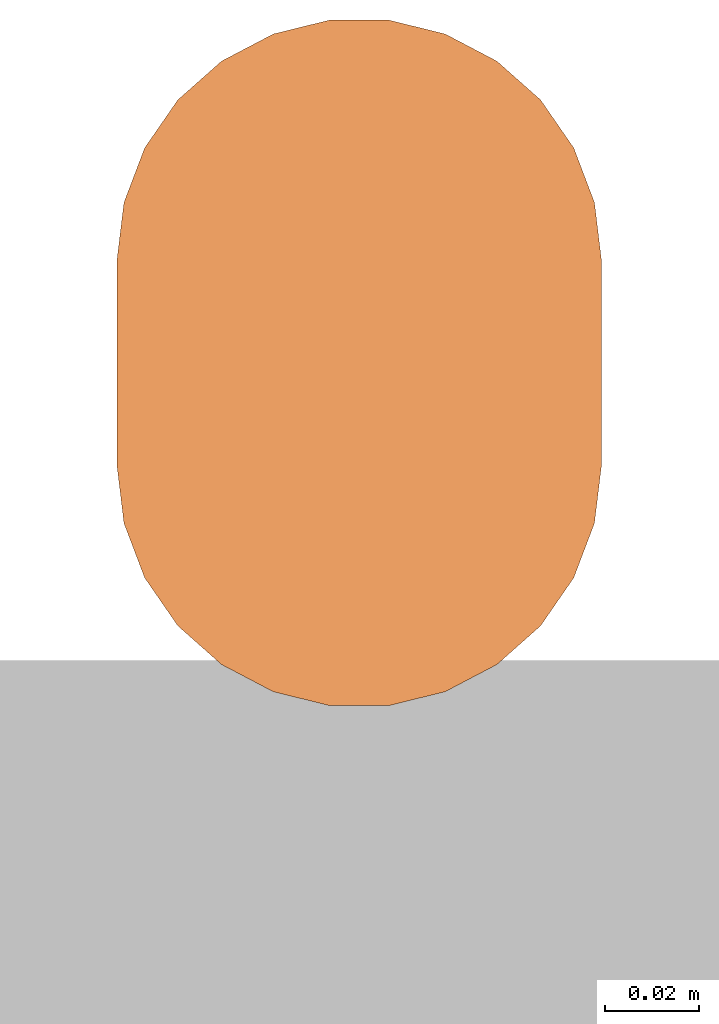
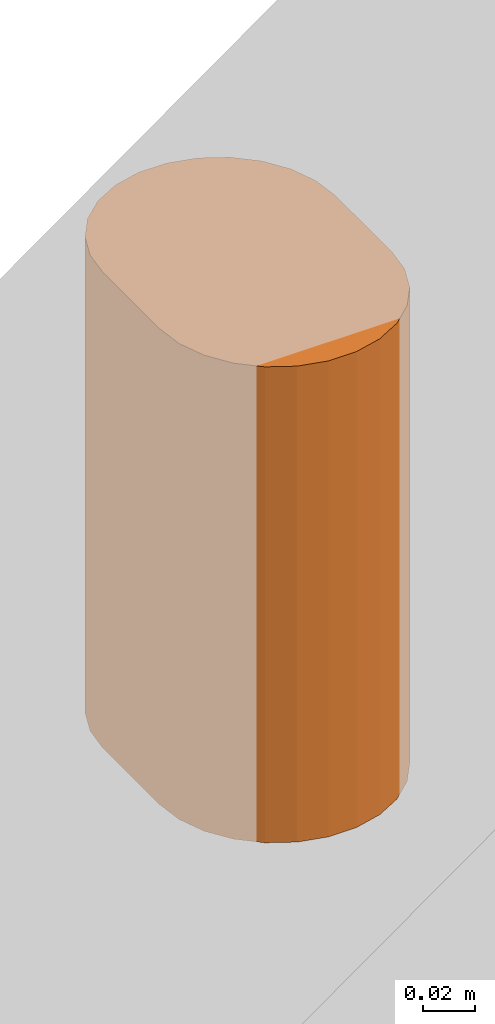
# One storey, part 2 of 2: 1 proxy.
"""IFC2X3 building model written with IfcOpenShell, lengths in millimetres."""

from ifc_helpers import new_model, entity, si_unit, converted_unit, derived_unit, direction, frame, frame_2d, origin, place, context, subcontext, project, spatial, polyline, circle_curve, parameter, trimmed, segment, composite_curve, outline, extrude, source, transform, mapped, element, save


model = new_model("IFC2X3")

# Units and contexts
model_context = context("Model", 3, precision=0.01, world=origin(), true_north=direction((6.12303176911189e-17, 1.0)))
context_of_model = context(None, 3, precision=0.01, world=origin(), true_north=direction((6.12303176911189e-17, 1.0)))
body_context = subcontext(model_context, "Body", "Model", "MODEL_VIEW")
ifc_project = project(units=[si_unit("LENGTHUNIT", "METRE", prefix="MILLI"), si_unit("AREAUNIT", "SQUARE_METRE"), si_unit("VOLUMEUNIT", "CUBIC_METRE"), converted_unit("PLANEANGLEUNIT", "DEGREE", entity("IfcRatioMeasure", 0.0174532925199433), si_unit("PLANEANGLEUNIT", "RADIAN"), dimensions=[0, 0, 0, 0, 0, 0, 0]), si_unit("MASSUNIT", "GRAM", prefix="KILO"), si_unit("TIMEUNIT", "SECOND"), si_unit("FREQUENCYUNIT", "HERTZ"), si_unit("THERMODYNAMICTEMPERATUREUNIT", "DEGREE_CELSIUS"), derived_unit("THERMALTRANSMITTANCEUNIT", [(si_unit("MASSUNIT", "GRAM", prefix="KILO"), 1), (si_unit("THERMODYNAMICTEMPERATUREUNIT", "KELVIN"), -1), (si_unit("TIMEUNIT", "SECOND"), -3)]), derived_unit("VOLUMETRICFLOWRATEUNIT", [(si_unit("LENGTHUNIT", "METRE"), 3), (si_unit("TIMEUNIT", "SECOND"), -1)]), si_unit("ELECTRICCURRENTUNIT", "AMPERE"), si_unit("ELECTRICVOLTAGEUNIT", "VOLT"), si_unit("POWERUNIT", "WATT"), si_unit("FORCEUNIT", "NEWTON", prefix="KILO"), si_unit("ILLUMINANCEUNIT", "LUX"), si_unit("LUMINOUSFLUXUNIT", "LUMEN"), si_unit("LUMINOUSINTENSITYUNIT", "CANDELA"), si_unit("PRESSUREUNIT", "PASCAL")], contexts=[model_context, context_of_model])

# Site, building, storey
site_placement = place(None, origin())
site = spatial("IfcSite", under=ifc_project, at=site_placement, Name="Default", CompositionType="ELEMENT")
building_placement = place(site_placement, origin())
building = spatial("IfcBuilding", under=site, at=building_placement, CompositionType="ELEMENT")
storey_placement = place(building_placement, origin())
storey = spatial("IfcBuildingStorey", under=building, at=storey_placement, Name="Level 1", CompositionType="ELEMENT", Elevation=0.0)

# Proxy
shared_shape = source(origin(), body_context, "Body", "SweptSolid", [
    extrude(outline(composite_curve([segment(trimmed(circle_curve(frame_2d((0.0, 21.7499999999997), x_axis=(1.0, 0.0)), 51.4999999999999), [parameter(360.0)], [parameter(180.0)], True, "PARAMETER"), True, "CONTINUOUS"), segment(polyline([(-51.4999999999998, 21.7499999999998), (-51.4999999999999, -21.7499999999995)]), True, "CONTINUOUS"), segment(trimmed(circle_curve(frame_2d((0.0, -21.7499999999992), x_axis=(1.0, 0.0)), 51.4999999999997), [parameter(180.0)], [parameter(359.999999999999)], True, "PARAMETER"), True, "CONTINUOUS"), segment(polyline([(51.4999999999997, -21.7499999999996), (51.5, 21.7499999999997)]), True, "CONTINUOUS")], self_intersect=False)), frame((53.0952722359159, 74.845272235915, 0.0)), (0.0, 0.0, 1.0), 222.999999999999),
])
proxy_placement = place(storey_placement, frame((604.718365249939, -478.847698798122, 1300.0)))
element("IfcBuildingElementProxy", 1, at=proxy_placement, inside=storey, Name="14704602000b:d_line_Sanitary_WallMountedPanels_TouchlessSoapDispenser", ObjectType="d_line_Sanitary_WallMountedPanels_TouchlessSoapDispenser", CompositionType="ELEMENT", context=body_context, shape_type="MappedRepresentation", body=[
    mapped(shared_shape, transform((0.0, 0.0, 0.0), scale=1.0)),
])

save(model, "model.ifc")
